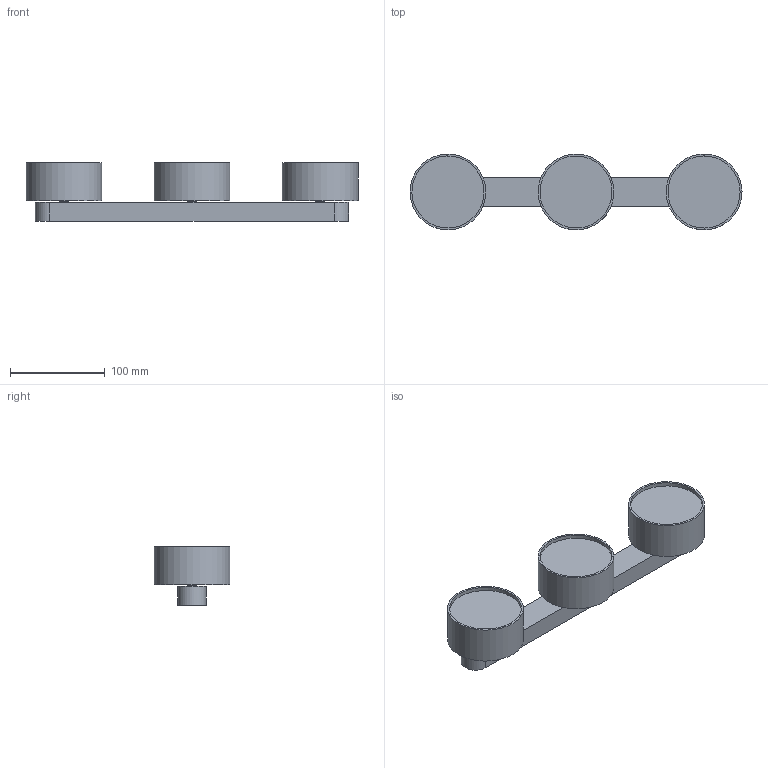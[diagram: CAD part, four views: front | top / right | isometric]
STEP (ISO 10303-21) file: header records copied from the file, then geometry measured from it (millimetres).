
FILE_DESCRIPTION(/* description */ (''),/* implementation_level */ '2;1');
FILE_NAME(/* name */ 'D:\TK Lighting\2021\Space\3400\Space3400.stp',/* time_stamp */ '2021-02-01T19:52:00+01:00',/* author */ ('Admin'),/* organization */ (''),/* preprocessor_version */ 'ST-DEVELOPER v16.5',/* originating_system */ 'Autodesk Inventor 2017',/* authorisation */ '');
FILE_SCHEMA (('AUTOMOTIVE_DESIGN { 1 0 10303 214 3 1 1 }'));
Length unit declared in the file: millimetre
Products named in the file (3): Space3400; Zawiesie; klosz
Assembly tree (4 placements, depth 2):
  Space3400
    Zawiesie
    klosz  x3
Bounding box: 349.97 x 79.98 x 62 mm (x, y, z)
Volume: 743356.7 mm3; surface area: 96670.9 mm2
Topology: 4 solids, 4 shells, 33 faces, 51 edges, 35 vertices
Faces by surface type: plane 19, cylinder 14
Full cylindrical faces by diameter (mm): 10 x6, 76 x3, 80 x3
Entity records: 544 total; most frequent: DIRECTION 92, CARTESIAN_POINT 70, ORIENTED_EDGE 48, AXIS2_PLACEMENT_3D 42, EDGE_LOOP 30, EDGE_CURVE 24, STYLED_ITEM 21, VERTEX_POINT 20
